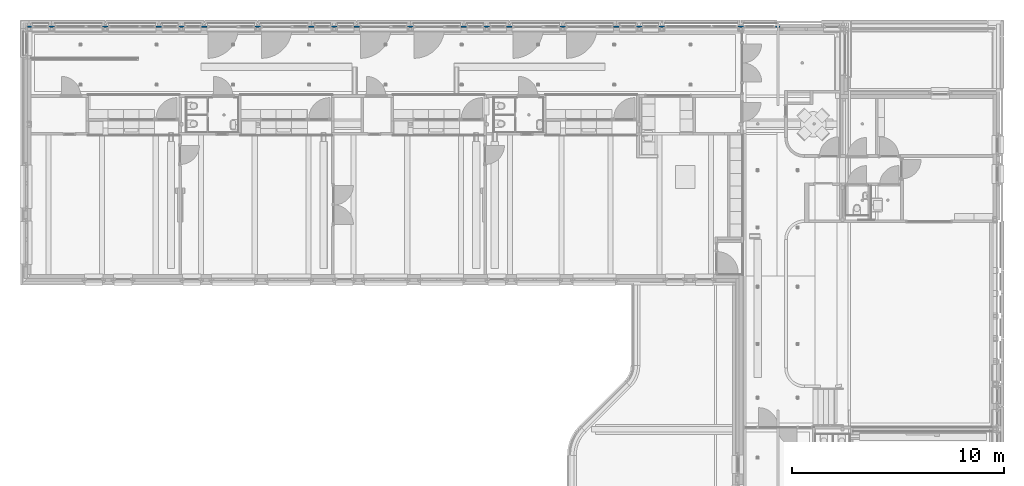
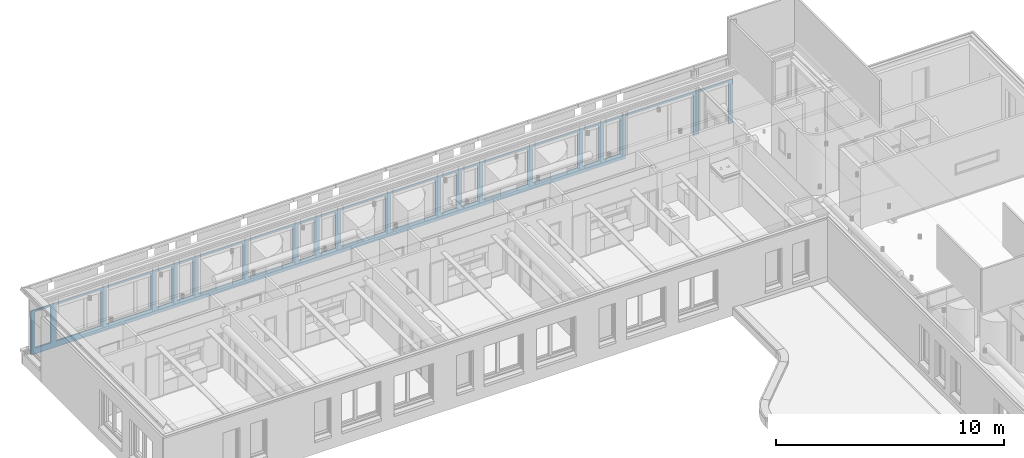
# One storey, part 51 of 128: 1 wall, 19 openings.
"""IFC2X3 building model written with IfcOpenShell, lengths in millimetres."""

import ifcopenshell
import ifcopenshell.guid

model = None  # the IFC model being written
_history = None  # IfcOwnerHistory: only IFC2X3 demands one
_inside = {}  # id of a spatial element -> (the spatial element, [elements in it])
_under = {}  # id of a project, library or spatial element -> (it, [spatial elements below it])
_declared = {}  # id of a project -> (the project, [libraries it declares])
_typed = {}  # id of a type object -> (the type object, [elements of that type])
_made_of = {}  # id of a material, layer set ... -> (it, [elements and type objects made of it])


def new_model(schema):
    """Start an empty IFC model of exactly this schema.

    Asked for "IFC4X3", IfcOpenShell would pick the latest addendum, in which some entities
    have other attributes; the version numbers below select the first issue.
    IFC2X3 requires an IfcOwnerHistory on every rooted entity: one is made here for all.
    """
    global model, _history
    if schema == "IFC4X3":
        model = ifcopenshell.file(schema_version=(4, 3, 0, 0))
    else:
        model = ifcopenshell.file(schema=schema)
    _inside.clear()
    _under.clear()
    _declared.clear()
    _typed.clear()
    _made_of.clear()
    _history = None
    if model.schema == "IFC2X3":
        org = make("IfcOrganization", Name="unknown")
        user = make(
            "IfcPersonAndOrganization",
            ThePerson=make("IfcPerson", FamilyName="unknown"),
            TheOrganization=org,
        )
        app = make(
            "IfcApplication",
            ApplicationDeveloper=org,
            Version="unknown",
            ApplicationFullName="unknown",
            ApplicationIdentifier="unknown",
        )
        _history = make(
            "IfcOwnerHistory",
            OwningUser=user,
            OwningApplication=app,
            ChangeAction="ADDED",
            CreationDate=0,
        )
    return model


def make(cls, **values):
    """One entity of the class cls with the attributes given. An attribute that is None is left unset."""
    return model.create_entity(
        cls, **{name: value for name, value in values.items() if value is not None}
    )


def entity(cls, *values):
    """Any entity or typed value of the class cls, its attributes in the order of the schema. None: left unset."""
    e = model.create_entity(cls)
    for i, value in enumerate(values):
        if value is not None:
            e[i] = value
    return e


def rooted(cls, **values):
    """An entity with a GlobalId (a new one), such as an element, a storey or a relation."""
    return make(cls, GlobalId=ifcopenshell.guid.new(), OwnerHistory=_history, **values)


def si_unit(unit_type, name, prefix=None):
    """IfcSIUnit, for example si_unit("LENGTHUNIT", "METRE", prefix="MILLI")."""
    return make("IfcSIUnit", UnitType=unit_type, Prefix=prefix, Name=name)


def converted_unit(unit_type, name, factor, base, dimensions=None, offset=None):
    """IfcConversionBasedUnit, such as the inch: factor (a typed value) times the base unit."""
    return make(
        "IfcConversionBasedUnit"
        if offset is None
        else "IfcConversionBasedUnitWithOffset",
        ConversionOffset=offset,
        Dimensions=None
        if dimensions is None
        else entity("IfcDimensionalExponents", *dimensions),
        UnitType=unit_type,
        Name=name,
        ConversionFactor=make(
            "IfcMeasureWithUnit", ValueComponent=factor, UnitComponent=base
        ),
    )


def derived_unit(unit_type, elements):
    """IfcDerivedUnit: a product of units, each with its exponent."""
    return make(
        "IfcDerivedUnit",
        Elements=[
            make("IfcDerivedUnitElement", Unit=unit, Exponent=power)
            for unit, power in elements
        ],
        UnitType=unit_type,
    )


def assignment(units):
    """IfcUnitAssignment: the units of a project."""
    return None if units is None else make("IfcUnitAssignment", Units=units)


def point(xyz):
    """IfcCartesianPoint."""
    return None if xyz is None else make("IfcCartesianPoint", Coordinates=xyz)


def direction(xyz):
    """IfcDirection."""
    return None if xyz is None else make("IfcDirection", DirectionRatios=xyz)


def frame(location, z_axis=None, x_axis=None):
    """IfcAxis2Placement3D, a coordinate frame: its origin and axes. An axis left out is left unset."""
    return make(
        "IfcAxis2Placement3D",
        Location=point(location),
        Axis=direction(z_axis),
        RefDirection=direction(x_axis),
    )


def frame_2d(location, x_axis=None):
    """IfcAxis2Placement2D, a coordinate frame in the plane: its origin and x axis."""
    return make(
        "IfcAxis2Placement2D", Location=point(location), RefDirection=direction(x_axis)
    )


def origin():
    """The frame at (0, 0, 0) with its axes left unset."""
    return frame((0.0, 0.0, 0.0))


def place(relative_to, where):
    """IfcLocalPlacement: puts the frame where relative to a parent placement (None: the world)."""
    return make(
        "IfcLocalPlacement", PlacementRelTo=relative_to, RelativePlacement=where
    )


def context(
    kind, dimensions, precision=None, world=None, true_north=None, identifier=None
):
    """IfcGeometricRepresentationContext, for example the 3D "Model" context."""
    return make(
        "IfcGeometricRepresentationContext",
        ContextIdentifier=identifier,
        ContextType=kind,
        CoordinateSpaceDimension=dimensions,
        Precision=precision,
        WorldCoordinateSystem=world,
        TrueNorth=true_north,
    )


def subcontext(parent, identifier, kind, view, scale=None):
    """IfcGeometricRepresentationSubContext, for example "Body" below "Model"."""
    return make(
        "IfcGeometricRepresentationSubContext",
        ContextIdentifier=identifier,
        ContextType=kind,
        ParentContext=parent,
        TargetScale=scale,
        TargetView=view,
    )


def project(units=None, contexts=None):
    """IfcProject with its units and contexts."""
    return rooted(
        "IfcProject",
        Name="project",
        RepresentationContexts=contexts,
        UnitsInContext=assignment(units),
    )


def spatial(cls, under=None, at=None, **own):
    """A site, building, storey or space (cls), placed at a placement, below another one or the project."""
    s = rooted(cls, ObjectPlacement=at, **own)
    if under is not None:
        _under.setdefault(under.id(), (under, []))[1].append(s)
    return s


def profile(cls, at=None, kind="AREA", **sizes):
    """A parametric profile (cls). Its sizes go by their IFC names, for example OverallWidth=200.0."""
    return make(cls, ProfileType=kind, Position=at, **sizes)


def rectangle(**sizes):
    """IfcRectangleProfileDef."""
    return profile("IfcRectangleProfileDef", **sizes)


def extrude(swept, where, along, depth):
    """IfcExtrudedAreaSolid: the profile swept, set in the frame where, extruded along a direction by depth."""
    return make(
        "IfcExtrudedAreaSolid",
        SweptArea=swept,
        Position=where,
        ExtrudedDirection=direction(along),
        Depth=depth,
    )


def shape(context_of_items, identifier, shape_type, items):
    """IfcShapeRepresentation: the items that make up one representation, for example the "Body"."""
    return make(
        "IfcShapeRepresentation",
        ContextOfItems=context_of_items,
        RepresentationIdentifier=identifier,
        RepresentationType=shape_type,
        Items=items,
    )


def material(Name=None, Category=None):
    """IfcMaterial."""
    return make("IfcMaterial", Name=Name, Category=Category)


def layer(
    of_material, thickness, ventilated=None, Name=None, Category=None, Priority=None
):
    """IfcMaterialLayer: one layer of a wall or slab, of a material (None: an air gap)."""
    return make(
        "IfcMaterialLayer",
        Material=of_material,
        LayerThickness=thickness,
        IsVentilated=ventilated,
        Name=Name,
        Category=Category,
        Priority=Priority,
    )


def layer_set(layers, Name=None):
    """IfcMaterialLayerSet."""
    return make("IfcMaterialLayerSet", MaterialLayers=layers, LayerSetName=Name)


def layer_usage(for_layer_set, set_direction, sense, offset, extent=None):
    """IfcMaterialLayerSetUsage: how a layer set lies in its element."""
    return make(
        "IfcMaterialLayerSetUsage",
        ForLayerSet=for_layer_set,
        LayerSetDirection=set_direction,
        DirectionSense=sense,
        OffsetFromReferenceLine=offset,
        ReferenceExtent=extent,
    )


def made_of(thing, what):
    """Note that an element or type object is made of a material, layer set ...; save() writes the relation."""
    if what is not None:
        _made_of.setdefault(what.id(), (what, []))[1].append(thing)
    return thing


def type_object(cls, material=None, **own):
    """A type object (cls), such as IfcWallType, which elements share."""
    return made_of(rooted(cls, **own), material)


def element(
    cls,
    number,
    at=None,
    inside=None,
    cuts=None,
    type_object=None,
    material=None,
    context=None,
    identifier="Body",
    shape_type=None,
    held_by="IfcProductDefinitionShape",
    body=None,
    shapes=None,
    **own,
):
    """One element of the class cls, such as IfcWall. Its Tag is "e" and its number.

    at: its placement. inside: the storey or other place that contains it. cuts: it is an
    opening in that element (IfcRelVoidsElement). A single representation is given by context,
    identifier, shape_type and body (its items); several are given by shapes. held_by: the class
    of the entity that holds the representations. save() writes the other relations.
    """
    e = rooted(cls, Tag="e%d" % number, ObjectPlacement=at, **own)
    if body is not None:
        shapes = [shape(context, identifier, shape_type, body)]
    if shapes is not None:
        e.Representation = make(held_by, Representations=shapes)
    if inside is not None:
        _inside.setdefault(inside.id(), (inside, []))[1].append(e)
    if cuts is not None:
        rooted(
            "IfcRelVoidsElement", RelatingBuildingElement=cuts, RelatedOpeningElement=e
        )
    if type_object is not None:
        _typed.setdefault(type_object.id(), (type_object, []))[1].append(e)
    return made_of(e, material)


def aggregate(whole, parts):
    """IfcRelAggregates: a whole, such as a stair, and the parts it consists of."""
    return rooted("IfcRelAggregates", RelatingObject=whole, RelatedObjects=parts)


def save(model, path):
    """Write the relations noted so far, then the file.

    IfcRelAggregates (storeys below a building ...), IfcRelContainedInSpatialStructure (elements
    in a storey), IfcRelDefinesByType, IfcRelAssociatesMaterial and IfcRelDeclares: one each for
    every whole, place, type object, material and project.
    """
    for whole, parts in _under.values():
        aggregate(whole, parts)
    for where, things in _inside.values():
        rooted(
            "IfcRelContainedInSpatialStructure",
            RelatedElements=things,
            RelatingStructure=where,
        )
    for kind, things in _typed.values():
        rooted("IfcRelDefinesByType", RelatedObjects=things, RelatingType=kind)
    for what, things in _made_of.values():
        rooted("IfcRelAssociatesMaterial", RelatedObjects=things, RelatingMaterial=what)
    for by, libraries in _declared.values():
        rooted("IfcRelDeclares", RelatingContext=by, RelatedDefinitions=libraries)
    model.write(path)


model = new_model("IFC2X3")

# Units and contexts
model_context = context("Model", 3, precision=0.01, world=origin(), true_north=direction((6.123031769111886e-17, 1.0)))
body_context = subcontext(model_context, "Body", "Model", "MODEL_VIEW")
ifc_project = project(units=[si_unit("LENGTHUNIT", "METRE", prefix="MILLI"), si_unit("AREAUNIT", "SQUARE_METRE"), si_unit("VOLUMEUNIT", "CUBIC_METRE"), converted_unit("PLANEANGLEUNIT", "DEGREE", entity("IfcRatioMeasure", 0.017453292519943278), si_unit("PLANEANGLEUNIT", "RADIAN"), dimensions=[0, 0, 0, 0, 0, 0, 0]), si_unit("MASSUNIT", "GRAM", prefix="KILO"), derived_unit("MASSDENSITYUNIT", [(si_unit("MASSUNIT", "GRAM", prefix="KILO"), 1), (si_unit("LENGTHUNIT", "METRE"), -3)]), derived_unit("IONCONCENTRATIONUNIT", [(si_unit("MASSUNIT", "GRAM", prefix="KILO"), 1), (si_unit("LENGTHUNIT", "METRE"), -3)]), derived_unit("MOMENTOFINERTIAUNIT", [(si_unit("LENGTHUNIT", "METRE"), 4)]), si_unit("TIMEUNIT", "SECOND"), si_unit("FREQUENCYUNIT", "HERTZ"), si_unit("THERMODYNAMICTEMPERATUREUNIT", "DEGREE_CELSIUS"), derived_unit("THERMALTRANSMITTANCEUNIT", [(si_unit("MASSUNIT", "GRAM", prefix="KILO"), 1), (si_unit("THERMODYNAMICTEMPERATUREUNIT", "KELVIN"), -1), (si_unit("TIMEUNIT", "SECOND"), -3)]), derived_unit("THERMALCONDUCTANCEUNIT", [(si_unit("MASSUNIT", "GRAM", prefix="KILO"), 1), (si_unit("THERMODYNAMICTEMPERATUREUNIT", "KELVIN"), -1), (si_unit("TIMEUNIT", "SECOND"), -3), (si_unit("LENGTHUNIT", "METRE"), 1)]), derived_unit("VOLUMETRICFLOWRATEUNIT", [(si_unit("LENGTHUNIT", "METRE"), 3), (si_unit("TIMEUNIT", "SECOND"), -1)]), derived_unit("MASSFLOWRATEUNIT", [(si_unit("MASSUNIT", "GRAM", prefix="KILO"), 1), (si_unit("TIMEUNIT", "SECOND"), -1)]), derived_unit("ROTATIONALFREQUENCYUNIT", [(si_unit("TIMEUNIT", "SECOND"), -1)]), si_unit("ELECTRICCURRENTUNIT", "AMPERE"), si_unit("ELECTRICVOLTAGEUNIT", "VOLT"), si_unit("POWERUNIT", "WATT"), si_unit("FORCEUNIT", "NEWTON", prefix="KILO"), si_unit("ILLUMINANCEUNIT", "LUX"), si_unit("LUMINOUSFLUXUNIT", "LUMEN"), si_unit("LUMINOUSINTENSITYUNIT", "CANDELA"), derived_unit("USERDEFINED", [(si_unit("MASSUNIT", "GRAM", prefix="KILO"), -1), (si_unit("LENGTHUNIT", "METRE"), -2), (si_unit("TIMEUNIT", "SECOND"), 3), (si_unit("LUMINOUSFLUXUNIT", "LUMEN"), 1)]), derived_unit("USERDEFINED", [(si_unit("MASSUNIT", "GRAM", prefix="KILO"), 1), (si_unit("TIMEUNIT", "SECOND"), -3), (si_unit("LENGTHUNIT", "METRE"), 3), (si_unit("ELECTRICCURRENTUNIT", "AMPERE"), -2)]), derived_unit("SOUNDPOWERUNIT", [(si_unit("MASSUNIT", "GRAM", prefix="KILO"), 1), (si_unit("TIMEUNIT", "SECOND"), -3), (si_unit("LENGTHUNIT", "METRE"), 2)]), derived_unit("SOUNDPRESSUREUNIT", [(si_unit("MASSUNIT", "GRAM", prefix="KILO"), 1), (si_unit("LENGTHUNIT", "METRE"), -1), (si_unit("TIMEUNIT", "SECOND"), -2)]), derived_unit("LINEARVELOCITYUNIT", [(si_unit("LENGTHUNIT", "METRE"), 1), (si_unit("TIMEUNIT", "SECOND"), -1)]), si_unit("PRESSUREUNIT", "PASCAL"), derived_unit("USERDEFINED", [(si_unit("MASSUNIT", "GRAM", prefix="KILO"), 1), (si_unit("LENGTHUNIT", "METRE"), -2), (si_unit("TIMEUNIT", "SECOND"), -2)]), derived_unit("LINEARFORCEUNIT", [(si_unit("MASSUNIT", "GRAM", prefix="KILO"), 1), (si_unit("TIMEUNIT", "SECOND"), -2)]), derived_unit("PLANARFORCEUNIT", [(si_unit("MASSUNIT", "GRAM", prefix="KILO"), 1), (si_unit("LENGTHUNIT", "METRE"), -1), (si_unit("TIMEUNIT", "SECOND"), -2)]), derived_unit("SPECIFICHEATCAPACITYUNIT", [(si_unit("THERMODYNAMICTEMPERATUREUNIT", "KELVIN"), -1), (si_unit("LENGTHUNIT", "METRE"), 2), (si_unit("TIMEUNIT", "SECOND"), -2)]), derived_unit("HEATINGVALUEUNIT", [(si_unit("LENGTHUNIT", "METRE"), 2), (si_unit("TIMEUNIT", "SECOND"), -2)]), derived_unit("VAPORPERMEABILITYUNIT", [(si_unit("LENGTHUNIT", "METRE"), -1), (si_unit("TIMEUNIT", "SECOND"), 1)]), derived_unit("DYNAMICVISCOSITYUNIT", [(si_unit("MASSUNIT", "GRAM", prefix="KILO"), 1), (si_unit("TIMEUNIT", "SECOND"), -1), (si_unit("LENGTHUNIT", "METRE"), -1)]), derived_unit("THERMALEXPANSIONCOEFFICIENTUNIT", [(si_unit("THERMODYNAMICTEMPERATUREUNIT", "KELVIN"), -1)]), derived_unit("MODULUSOFELASTICITYUNIT", [(si_unit("MASSUNIT", "GRAM", prefix="KILO"), 1), (si_unit("LENGTHUNIT", "METRE"), -1), (si_unit("TIMEUNIT", "SECOND"), -2)]), derived_unit("ISOTHERMALMOISTURECAPACITYUNIT", [(si_unit("LENGTHUNIT", "METRE"), 3), (si_unit("MASSUNIT", "GRAM", prefix="KILO"), -1)]), derived_unit("MOISTUREDIFFUSIVITYUNIT", [(si_unit("TIMEUNIT", "SECOND"), -1), (si_unit("LENGTHUNIT", "METRE"), 2)])], contexts=[model_context])

# Site, building, storey
site_placement = place(None, frame((0.0, 300.0, 0.0)))
site = spatial("IfcSite", under=ifc_project, at=site_placement, Name="<Kadastrale nummers>", CompositionType="ELEMENT")
building_placement = place(site_placement, origin())
building = spatial("IfcBuilding", under=site, at=building_placement, CompositionType="ELEMENT")
storey_placement = place(building_placement, frame((0.0, 0.0, 3560.0000331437)))
storey = spatial("IfcBuildingStorey", under=building, at=storey_placement, Name="01 eerste verdieping", CompositionType="ELEMENT", Elevation=3560.0000331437)

# Wall, openings
ifc_material = material(Name="ISR_Isolatie")
ifc_layer = layer(ifc_material, 70.0)
ifc_layer_set = layer_set([ifc_layer], Name="Basic Wall:21_DAT_isolatie hard_74")
ifc_layer_usage = layer_usage(ifc_layer_set, "AXIS2", "NEGATIVE", 35.0)
wall_type = type_object("IfcWallType", Name="Basic Wall:21_DAT_isolatie hard_74", PredefinedType="STANDARD", material=ifc_layer_set)
wall_placement = place(storey_placement, frame((2925.0, 49910.0, 577.5000018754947)))
wall = element("IfcWallStandardCase", 1, at=wall_placement, inside=storey, type_object=wall_type, material=ifc_layer_usage, Name="Basic Wall:21_DAT_isolatie hard_74", ObjectType="Basic Wall:21_DAT_isolatie hard_74", context=body_context, shape_type="SweptSolid", body=[
    extrude(rectangle(XDim=35530.0, YDim=70.0000000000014, at=frame_2d((17765.0, 3.907985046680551e-14), x_axis=(1.0, 0.0))), origin(), (0.0, 0.0, 1.0), 2350.517002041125),
])
opening_1_placement = place(wall_placement, origin())
element("IfcOpeningElement", 2, at=opening_1_placement, cuts=wall, Name="Basic Wall:21_DAT_isolatie hard_74", ObjectType="Opening", context=body_context, shape_type="SweptSolid", body=[
    extrude(rectangle(XDim=1929.9999649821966, YDim=2249.9999999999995, at=frame_2d((0.0, -2.8421709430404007e-13), x_axis=(0.0, 1.0))), frame((4940.0, -187.40000000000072, 1287.4999824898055), z_axis=(0.0, 1.0, 0.0), x_axis=(-1.0, 0.0, 0.0)), (0.0, 0.0, 1.0), 374.80000000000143),
])
opening_2_placement = place(wall_placement, origin())
element("IfcOpeningElement", 3, at=opening_2_placement, cuts=wall, Name="Basic Wall:21_DAT_isolatie hard_74", ObjectType="Opening", context=body_context, shape_type="SweptSolid", body=[
    extrude(rectangle(XDim=1929.9999649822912, YDim=790.0000000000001, at=frame_2d((0.0, 0.0), x_axis=(0.0, 1.0))), frame((610.0, -187.39999999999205, 1287.4999824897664), z_axis=(0.0, 1.0, 0.0), x_axis=(-1.0, 0.0, 0.0)), (0.0, 0.0, 1.0), 374.80000000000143),
])
opening_3_placement = place(wall_placement, origin())
element("IfcOpeningElement", 4, at=opening_3_placement, cuts=wall, Name="Basic Wall:21_DAT_isolatie hard_74", ObjectType="Opening", context=body_context, shape_type="SweptSolid", body=[
    extrude(rectangle(XDim=1929.9999649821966, YDim=2249.9999999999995, at=frame_2d((0.0, -2.8421709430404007e-13), x_axis=(0.0, 1.0))), frame((2410.0, -187.39999999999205, 1287.4999824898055), z_axis=(0.0, 1.0, 0.0), x_axis=(-1.0, 0.0, 0.0)), (0.0, 0.0, 1.0), 374.80000000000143),
])
opening_4_placement = place(wall_placement, origin())
element("IfcOpeningElement", 5, at=opening_4_placement, cuts=wall, Name="Basic Wall:21_DAT_isolatie hard_74", ObjectType="Opening", context=body_context, shape_type="SweptSolid", body=[
    extrude(rectangle(XDim=1929.9999649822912, YDim=789.9999999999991, at=frame_2d((5.400124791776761e-13, 0.0), x_axis=(0.0, 1.0))), frame((6740.0, -187.39999999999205, 1287.4999824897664), z_axis=(0.0, 1.0, 0.0), x_axis=(-1.0, 0.0, 0.0)), (0.0, 0.0, 1.0), 374.80000000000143),
])
opening_5_placement = place(wall_placement, origin())
element("IfcOpeningElement", 6, at=opening_5_placement, cuts=wall, Name="Basic Wall:21_DAT_isolatie hard_74", ObjectType="Opening", context=body_context, shape_type="SweptSolid", body=[
    extrude(rectangle(XDim=1929.9999649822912, YDim=789.999999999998, at=frame_2d((0.0, 0.0), x_axis=(0.0, 1.0))), frame((7810.0, -187.39999999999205, 1287.4999824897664), z_axis=(0.0, 1.0, 0.0), x_axis=(-1.0, 0.0, 0.0)), (0.0, 0.0, 1.0), 374.80000000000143),
])
opening_6_placement = place(wall_placement, origin())
element("IfcOpeningElement", 7, at=opening_6_placement, cuts=wall, Name="Basic Wall:21_DAT_isolatie hard_74", ObjectType="Opening", context=body_context, shape_type="SweptSolid", body=[
    extrude(rectangle(XDim=1929.9999649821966, YDim=2249.9999999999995, at=frame_2d((0.0, -2.8421709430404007e-13), x_axis=(0.0, 1.0))), frame((9610.0, -187.40000000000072, 1287.4999824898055), z_axis=(0.0, 1.0, 0.0), x_axis=(-1.0, 0.0, 0.0)), (0.0, 0.0, 1.0), 374.80000000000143),
])
opening_7_placement = place(wall_placement, origin())
element("IfcOpeningElement", 8, at=opening_7_placement, cuts=wall, Name="Basic Wall:21_DAT_isolatie hard_74", ObjectType="Opening", context=body_context, shape_type="SweptSolid", body=[
    extrude(rectangle(XDim=1929.9999649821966, YDim=2249.9999999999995, at=frame_2d((0.0, -2.8421709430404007e-13), x_axis=(0.0, 1.0))), frame((12140.0, -187.39999999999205, 1287.4999824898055), z_axis=(0.0, 1.0, 0.0), x_axis=(-1.0, 0.0, 0.0)), (0.0, 0.0, 1.0), 374.80000000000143),
])
opening_8_placement = place(wall_placement, origin())
element("IfcOpeningElement", 9, at=opening_8_placement, cuts=wall, Name="Basic Wall:21_DAT_isolatie hard_74", ObjectType="Opening", context=body_context, shape_type="SweptSolid", body=[
    extrude(rectangle(XDim=1929.9999649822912, YDim=789.999999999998, at=frame_2d((-2.1600499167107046e-12, 0.0), x_axis=(0.0, 1.0))), frame((13940.0, -187.39999999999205, 1287.4999824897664), z_axis=(0.0, 1.0, 0.0), x_axis=(-1.0, 0.0, 0.0)), (0.0, 0.0, 1.0), 374.80000000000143),
])
opening_9_placement = place(wall_placement, origin())
element("IfcOpeningElement", 10, at=opening_9_placement, cuts=wall, Name="Basic Wall:21_DAT_isolatie hard_74", ObjectType="Opening", context=body_context, shape_type="SweptSolid", body=[
    extrude(rectangle(XDim=1929.9999649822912, YDim=789.999999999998, at=frame_2d((-2.1600499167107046e-12, 0.0), x_axis=(0.0, 1.0))), frame((15010.0, -187.39999999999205, 1287.4999824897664), z_axis=(0.0, 1.0, 0.0), x_axis=(-1.0, 0.0, 0.0)), (0.0, 0.0, 1.0), 374.80000000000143),
])
opening_10_placement = place(wall_placement, origin())
element("IfcOpeningElement", 11, at=opening_10_placement, cuts=wall, Name="Basic Wall:21_DAT_isolatie hard_74", ObjectType="Opening", context=body_context, shape_type="SweptSolid", body=[
    extrude(rectangle(XDim=1929.9999649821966, YDim=2250.000000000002, at=frame_2d((1.1368683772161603e-12, -2.8421709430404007e-13), x_axis=(0.0, 1.0))), frame((16810.0, -187.40000000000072, 1287.4999824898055), z_axis=(0.0, 1.0, 0.0), x_axis=(-1.0, 0.0, 0.0)), (0.0, 0.0, 1.0), 374.80000000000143),
])
opening_11_placement = place(wall_placement, origin())
element("IfcOpeningElement", 12, at=opening_11_placement, cuts=wall, Name="Basic Wall:21_DAT_isolatie hard_74", ObjectType="Opening", context=body_context, shape_type="SweptSolid", body=[
    extrude(rectangle(XDim=1929.9999649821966, YDim=2249.9999999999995, at=frame_2d((0.0, -2.8421709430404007e-13), x_axis=(0.0, 1.0))), frame((19340.0, -187.39999999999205, 1287.4999824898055), z_axis=(0.0, 1.0, 0.0), x_axis=(-1.0, 0.0, 0.0)), (0.0, 0.0, 1.0), 374.80000000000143),
])
opening_12_placement = place(wall_placement, origin())
element("IfcOpeningElement", 13, at=opening_12_placement, cuts=wall, Name="Basic Wall:21_DAT_isolatie hard_74", ObjectType="Opening", context=body_context, shape_type="SweptSolid", body=[
    extrude(rectangle(XDim=1929.9999649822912, YDim=790.0000000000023, at=frame_2d((0.0, 0.0), x_axis=(0.0, 1.0))), frame((21140.0, -187.40000000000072, 1287.4999824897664), z_axis=(0.0, 1.0, 0.0), x_axis=(-1.0, 0.0, 0.0)), (0.0, 0.0, 1.0), 374.80000000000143),
])
opening_13_placement = place(wall_placement, origin())
element("IfcOpeningElement", 14, at=opening_13_placement, cuts=wall, Name="Basic Wall:21_DAT_isolatie hard_74", ObjectType="Opening", context=body_context, shape_type="SweptSolid", body=[
    extrude(rectangle(XDim=1929.9999649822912, YDim=790.0000000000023, at=frame_2d((0.0, 0.0), x_axis=(0.0, 1.0))), frame((22210.0, -187.40000000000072, 1287.4999824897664), z_axis=(0.0, 1.0, 0.0), x_axis=(-1.0, 0.0, 0.0)), (0.0, 0.0, 1.0), 374.80000000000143),
])
opening_14_placement = place(wall_placement, origin())
element("IfcOpeningElement", 15, at=opening_14_placement, cuts=wall, Name="Basic Wall:21_DAT_isolatie hard_74", ObjectType="Opening", context=body_context, shape_type="SweptSolid", body=[
    extrude(rectangle(XDim=1929.9999649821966, YDim=2249.9999999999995, at=frame_2d((4.320099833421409e-12, -2.8421709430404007e-13), x_axis=(0.0, 1.0))), frame((24010.0, -187.39999999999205, 1287.4999824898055), z_axis=(0.0, 1.0, 0.0), x_axis=(-1.0, 0.0, 0.0)), (0.0, 0.0, 1.0), 374.80000000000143),
])
opening_15_placement = place(wall_placement, origin())
element("IfcOpeningElement", 16, at=opening_15_placement, cuts=wall, Name="Basic Wall:21_DAT_isolatie hard_74", ObjectType="Opening", context=body_context, shape_type="SweptSolid", body=[
    extrude(rectangle(XDim=1929.9999649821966, YDim=2249.9999999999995, at=frame_2d((4.320099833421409e-12, -2.8421709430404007e-13), x_axis=(0.0, 1.0))), frame((26540.0, -187.39999999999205, 1287.4999824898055), z_axis=(0.0, 1.0, 0.0), x_axis=(-1.0, 0.0, 0.0)), (0.0, 0.0, 1.0), 374.80000000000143),
])
opening_16_placement = place(wall_placement, origin())
element("IfcOpeningElement", 17, at=opening_16_placement, cuts=wall, Name="Basic Wall:21_DAT_isolatie hard_74", ObjectType="Opening", context=body_context, shape_type="SweptSolid", body=[
    extrude(rectangle(XDim=1929.9999649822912, YDim=790.0000000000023, at=frame_2d((-4.348521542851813e-12, 0.0), x_axis=(0.0, 1.0))), frame((28340.0, -187.40000000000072, 1287.4999824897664), z_axis=(0.0, 1.0, 0.0), x_axis=(-1.0, 0.0, 0.0)), (0.0, 0.0, 1.0), 374.80000000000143),
])
opening_17_placement = place(wall_placement, origin())
element("IfcOpeningElement", 18, at=opening_17_placement, cuts=wall, Name="Basic Wall:21_DAT_isolatie hard_74", ObjectType="Opening", context=body_context, shape_type="SweptSolid", body=[
    extrude(rectangle(XDim=1929.9999649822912, YDim=790.0000000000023, at=frame_2d((0.0, 0.0), x_axis=(0.0, 1.0))), frame((29410.0, -187.40000000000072, 1287.4999824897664), z_axis=(0.0, 1.0, 0.0), x_axis=(-1.0, 0.0, 0.0)), (0.0, 0.0, 1.0), 374.80000000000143),
])
opening_18_placement = place(wall_placement, origin())
element("IfcOpeningElement", 19, at=opening_18_placement, cuts=wall, Name="Basic Wall:21_DAT_isolatie hard_74", ObjectType="Opening", context=body_context, shape_type="SweptSolid", body=[
    extrude(rectangle(XDim=2759.9999649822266, YDim=3450.000000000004, at=frame_2d((0.0, -2.2737367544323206e-13), x_axis=(0.0, 1.0))), frame((31810.0, -187.40000000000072, 872.4999824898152), z_axis=(0.0, 1.0, 0.0), x_axis=(-1.0, 0.0, 0.0)), (0.0, 0.0, 1.0), 374.80000000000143),
])
opening_19_placement = place(wall_placement, origin())
element("IfcOpeningElement", 20, at=opening_19_placement, cuts=wall, Name="Basic Wall:21_DAT_isolatie hard_74", ObjectType="Opening", context=body_context, shape_type="SweptSolid", body=[
    extrude(rectangle(XDim=2759.9999649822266, YDim=1494.999999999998, at=frame_2d((0.0, -2.2737367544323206e-13), x_axis=(0.0, 1.0))), frame((34562.500000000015, -187.40000000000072, 872.4999824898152), z_axis=(0.0, 1.0, 0.0), x_axis=(-1.0, 0.0, 0.0)), (0.0, 0.0, 1.0), 374.80000000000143),
])

save(model, "model.ifc")
